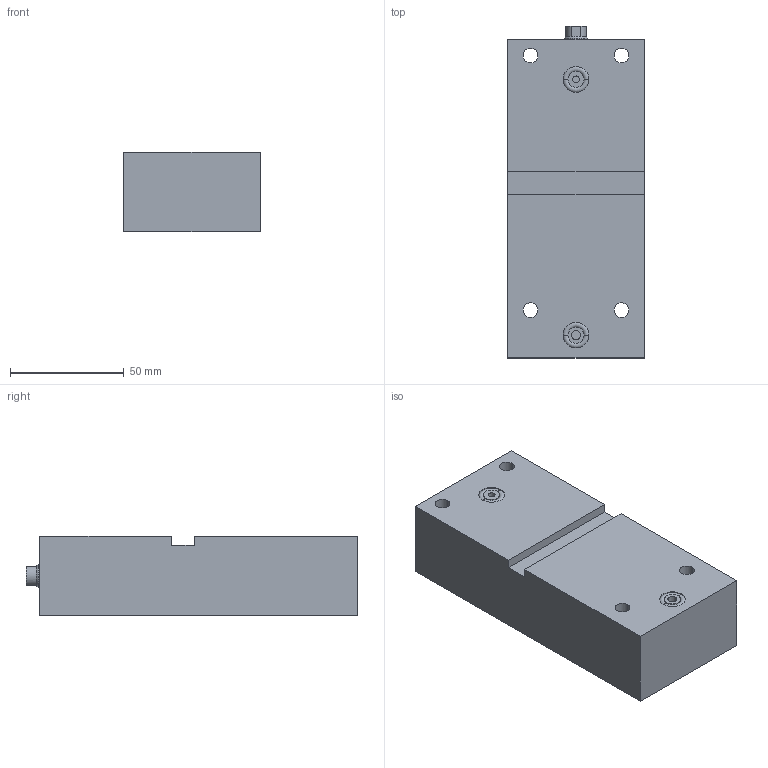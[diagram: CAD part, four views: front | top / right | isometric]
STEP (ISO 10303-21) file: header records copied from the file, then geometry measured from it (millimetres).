
FILE_DESCRIPTION (( 'STEP AP203' ), '1' );
FILE_NAME ('GERMA_Blockzylinder_603-016-100.STEP', '2016-01-04T15:54:52', ( '' ), ( '' ), 'SwSTEP 2.0', 'SolidWorks 2015', '' );
FILE_SCHEMA (( 'CONFIG_CONTROL_DESIGN' ));
Length unit declared in the file: millimetre
Products named in the file (3): GH-600-016_GH-603-016-100; Kolben 60x-016_Kolben DU.16-Hub100-IG; GERMA_Blockzylinder_603-016-100
Assembly tree (2 placements, depth 2):
  GERMA_Blockzylinder_603-016-100
    GH-600-016_GH-603-016-100
    Kolben 60x-016_Kolben DU.16-Hub100-IG
Bounding box: 60 x 146 x 35 mm (x, y, z)
Volume: 274612.8 mm3; surface area: 45509.6 mm2
Topology: 2 solids, 2 shells, 83 faces, 184 edges, 112 vertices
Faces by surface type: cylinder 39, plane 26, cone 14, torus 4
Entity records: 2588 total; most frequent: DIRECTION 449, CARTESIAN_POINT 378, ORIENTED_EDGE 356, AXIS2_PLACEMENT_3D 183, EDGE_CURVE 178, VERTEX_POINT 112, EDGE_LOOP 104, CIRCLE 95
